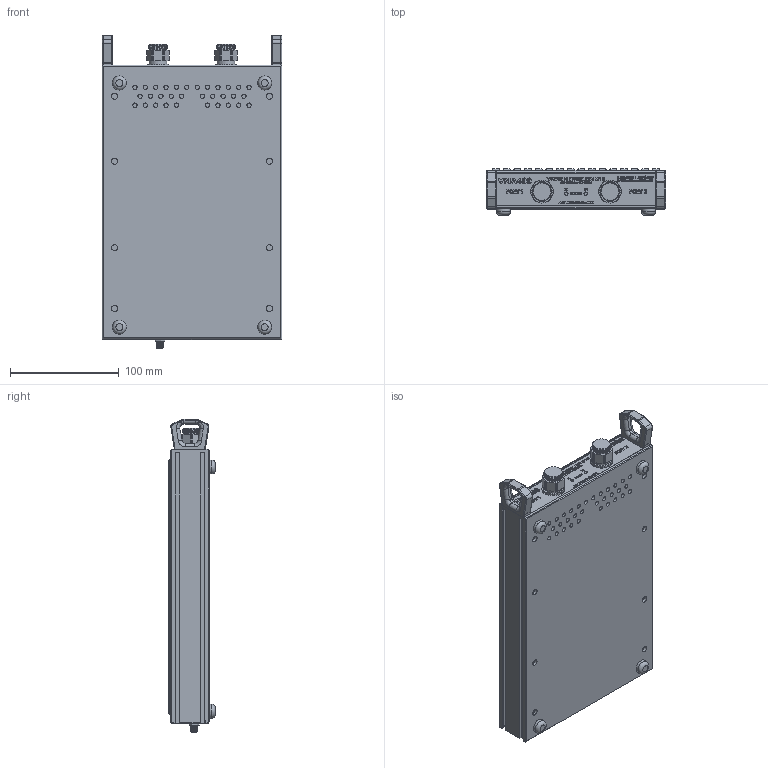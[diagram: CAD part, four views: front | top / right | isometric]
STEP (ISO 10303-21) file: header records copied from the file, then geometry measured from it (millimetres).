
FILE_DESCRIPTION (( 'STEP AP214' ), '1' );
FILE_NAME ('VNA400 OPTION 21 HANDLES 2025-07-09.STEP', '2025-07-09T19:30:55', ( '' ), ( '' ), 'SwSTEP 2.0', 'SolidWorks 2024', '' );
FILE_SCHEMA (( 'AUTOMOTIVE_DESIGN' ));
Products named in the file (1): VNA400 OPTION 21 HANDLES 2025-07-09
Bounding box: 165.1 x 42.67 x 287.81 mm (x, y, z)
Volume: 1489788.6 mm3; surface area: 145627.5 mm2
Topology: 1 solids, 11 shells, 2238 faces, 5846 edges, 3876 vertices
Faces by surface type: plane 1367, bspline 387, cylinder 384, torus 52, cone 48
Full cylindrical faces by diameter (mm): 1.27 x1, 2.286 x2, 3.175 x4, 3.969 x32, 5.385 x1, 5.558 x8, 6.35 x4, 7.938 x4, 10.922 x1, 12.7 x4, 12.954 x4, 16 x6, 19.05 x2, 21.082 x2
Entity records: 87759 total; most frequent: CARTESIAN_POINT 36688, ORIENTED_EDGE 11410, DIRECTION 8707, EDGE_CURVE 5705, VECTOR 3823, LINE 3823, VERTEX_POINT 3819, EDGE_LOOP 2580
